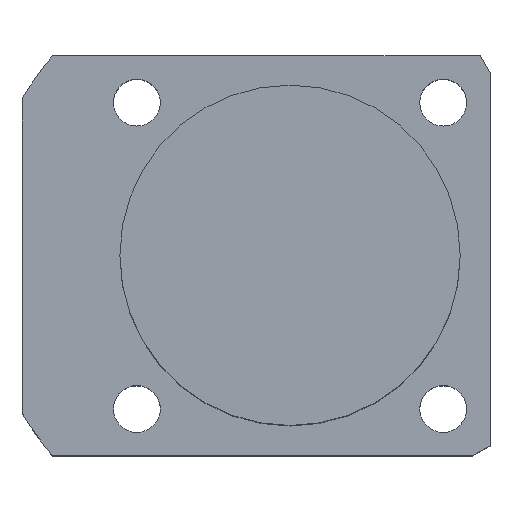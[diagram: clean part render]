
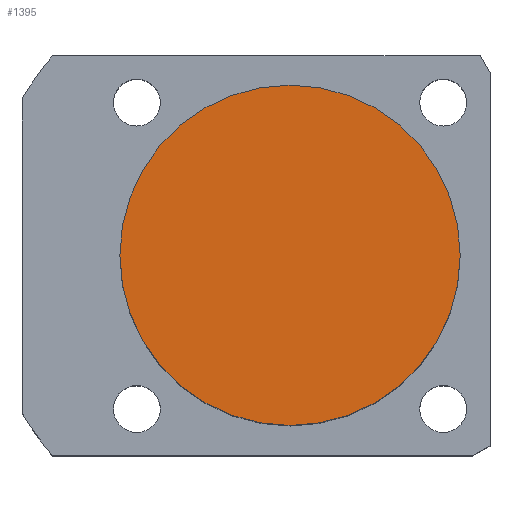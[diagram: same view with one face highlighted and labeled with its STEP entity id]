
A CAD part, top view. The second image highlights one B-rep face of the part: STEP entity #1395.
In plain terms, the highlighted planar face has unit normal (0, 0, 1).
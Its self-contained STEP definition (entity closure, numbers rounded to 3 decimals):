
#48 = DIRECTION ( 'NONE',  ( 1., 0., 0. ) ) ;
#55 = ORIENTED_EDGE ( 'NONE', *, *, #1582, .T. ) ;
#61 = DIRECTION ( 'NONE',  ( 1., 0., 0. ) ) ;
#85 = FACE_OUTER_BOUND ( 'NONE', #1030, .T. ) ;
#187 = DIRECTION ( 'NONE',  ( 0., 0., 1. ) ) ;
#193 = CARTESIAN_POINT ( 'NONE',  ( 0., 0., 46.5 ) ) ;
#290 = EDGE_CURVE ( 'NONE', #451, #1100, #924, .T. ) ;
#315 = ORIENTED_EDGE ( 'NONE', *, *, #290, .T. ) ;
#373 = CIRCLE ( 'NONE', #389, 20. ) ;
#389 = AXIS2_PLACEMENT_3D ( 'NONE', #193, #187, #48 ) ;
#451 = VERTEX_POINT ( 'NONE', #1089 ) ;
#694 = PLANE ( 'NONE',  #1051 ) ;
#748 = DIRECTION ( 'NONE',  ( 0., 0., 1. ) ) ;
#825 = DIRECTION ( 'NONE',  ( 0., 0., 1. ) ) ;
#924 = CIRCLE ( 'NONE', #1483, 20. ) ;
#1030 = EDGE_LOOP ( 'NONE', ( #55, #315 ) ) ;
#1051 = AXIS2_PLACEMENT_3D ( 'NONE', #1626, #825, #1247 ) ;
#1089 = CARTESIAN_POINT ( 'NONE',  ( 20., 0., 46.5 ) ) ;
#1100 = VERTEX_POINT ( 'NONE', #1560 ) ;
#1247 = DIRECTION ( 'NONE',  ( 1., 0., 0. ) ) ;
#1395 = ADVANCED_FACE ( 'NONE', ( #85 ), #694, .T. ) ;
#1483 = AXIS2_PLACEMENT_3D ( 'NONE', #1677, #748, #61 ) ;
#1560 = CARTESIAN_POINT ( 'NONE',  ( -20., 0., 46.5 ) ) ;
#1582 = EDGE_CURVE ( 'NONE', #1100, #451, #373, .T. ) ;
#1626 = CARTESIAN_POINT ( 'NONE',  ( 0., 0., 46.5 ) ) ;
#1677 = CARTESIAN_POINT ( 'NONE',  ( 0., 0., 46.5 ) ) ;
